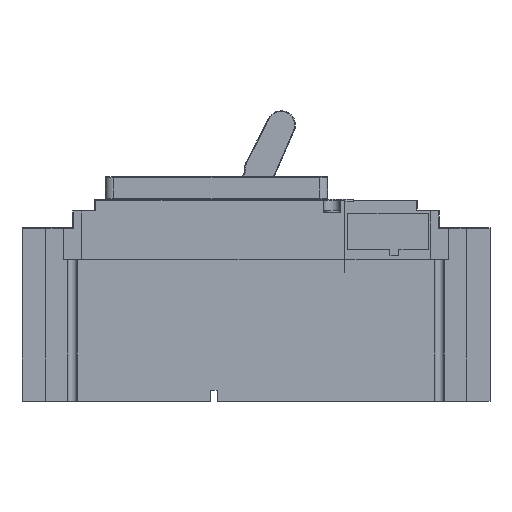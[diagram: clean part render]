
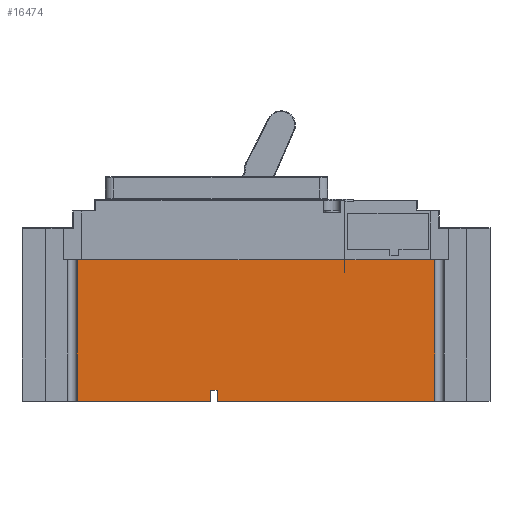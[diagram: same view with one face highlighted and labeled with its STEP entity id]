
A CAD part, left-side view. The second image highlights one B-rep face of the part: STEP entity #16474.
In plain terms, the highlighted planar face has unit normal (-1, 0, 0).
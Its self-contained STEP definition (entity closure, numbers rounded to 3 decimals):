
#136=DIRECTION('',(0.,1.,0.));
#137=VECTOR('',#136,72.784);
#138=CARTESIAN_POINT('',(0.5,152.15,0.));
#139=LINE('',#138,#137);
#250=DIRECTION('',(0.,1.,0.));
#251=VECTOR('',#250,118.684);
#252=CARTESIAN_POINT('',(0.5,29.966,0.));
#253=LINE('',#252,#251);
#611=DIRECTION('',(0.,1.,0.));
#612=VECTOR('',#611,3.5);
#613=CARTESIAN_POINT('',(0.5,148.65,6.));
#614=LINE('',#613,#612);
#615=DIRECTION('',(0.,0.,1.));
#616=VECTOR('',#615,6.);
#617=CARTESIAN_POINT('',(0.5,152.15,0.));
#618=LINE('',#617,#616);
#619=DIRECTION('',(0.,-1.,0.));
#620=VECTOR('',#619,143.);
#621=CARTESIAN_POINT('',(0.5,222.4,77.1));
#622=LINE('',#621,#620);
#623=DIRECTION('',(0.,-1.,0.));
#624=VECTOR('',#623,46.5);
#625=CARTESIAN_POINT('',(0.5,79.,77.1));
#626=LINE('',#625,#624);
#627=DIRECTION('',(0.,0.,1.));
#628=VECTOR('',#627,6.);
#629=CARTESIAN_POINT('',(0.5,148.65,0.));
#630=LINE('',#629,#628);
#672=DIRECTION('',(0.,0.,-1.));
#673=VECTOR('',#672,77.1);
#674=CARTESIAN_POINT('',(0.5,224.934,77.1));
#675=LINE('',#674,#673);
#701=DIRECTION('',(0.,1.,0.));
#702=VECTOR('',#701,2.534);
#703=CARTESIAN_POINT('',(0.5,222.4,77.1));
#704=LINE('',#703,#702);
#5357=DIRECTION('',(0.,1.,0.));
#5358=VECTOR('',#5357,2.534);
#5359=CARTESIAN_POINT('',(0.5,29.966,77.1));
#5360=LINE('',#5359,#5358);
#5428=DIRECTION('',(0.,0.,1.));
#5429=VECTOR('',#5428,77.1);
#5430=CARTESIAN_POINT('',(0.5,29.966,0.));
#5431=LINE('',#5430,#5429);
#5663=DIRECTION('',(0.,0.,1.));
#5664=VECTOR('',#5663,7.1);
#5665=CARTESIAN_POINT('',(0.5,79.,70.));
#5666=LINE('',#5665,#5664);
#5681=DIRECTION('',(0.,0.,1.));
#5682=VECTOR('',#5681,7.1);
#5683=CARTESIAN_POINT('',(0.5,79.4,70.));
#5684=LINE('',#5683,#5682);
#7740=DIRECTION('',(0.,-1.,0.));
#7741=VECTOR('',#7740,0.4);
#7742=CARTESIAN_POINT('',(0.5,79.4,70.));
#7743=LINE('',#7742,#7741);
#13832=CARTESIAN_POINT('',(0.5,29.966,77.1));
#13833=CARTESIAN_POINT('',(0.5,32.5,77.1));
#13834=VERTEX_POINT('',#13832);
#13835=VERTEX_POINT('',#13833);
#13846=CARTESIAN_POINT('',(0.5,29.966,0.));
#13847=VERTEX_POINT('',#13846);
#13852=CARTESIAN_POINT('',(0.5,222.4,77.1));
#13853=CARTESIAN_POINT('',(0.5,224.934,77.1));
#13854=VERTEX_POINT('',#13852);
#13855=VERTEX_POINT('',#13853);
#13870=CARTESIAN_POINT('',(0.5,224.934,0.));
#13871=VERTEX_POINT('',#13870);
#13886=CARTESIAN_POINT('',(0.5,79.4,70.));
#13887=CARTESIAN_POINT('',(0.5,79.,70.));
#13888=VERTEX_POINT('',#13886);
#13889=VERTEX_POINT('',#13887);
#13890=CARTESIAN_POINT('',(0.5,79.,77.1));
#13891=VERTEX_POINT('',#13890);
#13892=CARTESIAN_POINT('',(0.5,79.4,77.1));
#13893=VERTEX_POINT('',#13892);
#14174=CARTESIAN_POINT('',(0.5,148.65,0.));
#14175=VERTEX_POINT('',#14174);
#14176=CARTESIAN_POINT('',(0.5,152.15,0.));
#14178=VERTEX_POINT('',#14176);
#14184=CARTESIAN_POINT('',(0.5,148.65,6.));
#14185=CARTESIAN_POINT('',(0.5,152.15,6.));
#14186=VERTEX_POINT('',#14184);
#14187=VERTEX_POINT('',#14185);
#16443=CARTESIAN_POINT('',(0.5,13.,94.6));
#16444=DIRECTION('',(1.,0.,0.));
#16445=DIRECTION('',(0.,1.,0.));
#16446=AXIS2_PLACEMENT_3D('',#16443,#16444,#16445);
#16447=PLANE('',#16446);
#16448=ORIENTED_EDGE('',*,*,#16059,.T.);
#16450=ORIENTED_EDGE('',*,*,#16449,.F.);
#16451=ORIENTED_EDGE('',*,*,#15877,.T.);
#16453=ORIENTED_EDGE('',*,*,#16452,.F.);
#16455=ORIENTED_EDGE('',*,*,#16454,.F.);
#16457=ORIENTED_EDGE('',*,*,#16456,.T.);
#16459=ORIENTED_EDGE('',*,*,#16458,.F.);
#16461=ORIENTED_EDGE('',*,*,#16460,.T.);
#16463=ORIENTED_EDGE('',*,*,#16462,.T.);
#16465=ORIENTED_EDGE('',*,*,#16464,.T.);
#16467=ORIENTED_EDGE('',*,*,#16466,.F.);
#16469=ORIENTED_EDGE('',*,*,#16468,.F.);
#16470=ORIENTED_EDGE('',*,*,#15945,.T.);
#16471=ORIENTED_EDGE('',*,*,#16438,.T.);
#16472=EDGE_LOOP('',(#16448,#16450,#16451,#16453,#16455,#16457,#16459,#16461,
#16463,#16465,#16467,#16469,#16470,#16471));
#16473=FACE_OUTER_BOUND('',#16472,.F.);
#16474=ADVANCED_FACE('',(#16473),#16447,.F.);
#15877=EDGE_CURVE('',#14178,#13871,#139,.T.);
#15945=EDGE_CURVE('',#13847,#14175,#253,.T.);
#16059=EDGE_CURVE('',#14186,#14187,#614,.T.);
#16438=EDGE_CURVE('',#14175,#14186,#630,.T.);
#16449=EDGE_CURVE('',#14178,#14187,#618,.T.);
#16452=EDGE_CURVE('',#13855,#13871,#675,.T.);
#16454=EDGE_CURVE('',#13854,#13855,#704,.T.);
#16456=EDGE_CURVE('',#13854,#13893,#622,.T.);
#16458=EDGE_CURVE('',#13888,#13893,#5684,.T.);
#16460=EDGE_CURVE('',#13888,#13889,#7743,.T.);
#16462=EDGE_CURVE('',#13889,#13891,#5666,.T.);
#16464=EDGE_CURVE('',#13891,#13835,#626,.T.);
#16466=EDGE_CURVE('',#13834,#13835,#5360,.T.);
#16468=EDGE_CURVE('',#13847,#13834,#5431,.T.);
